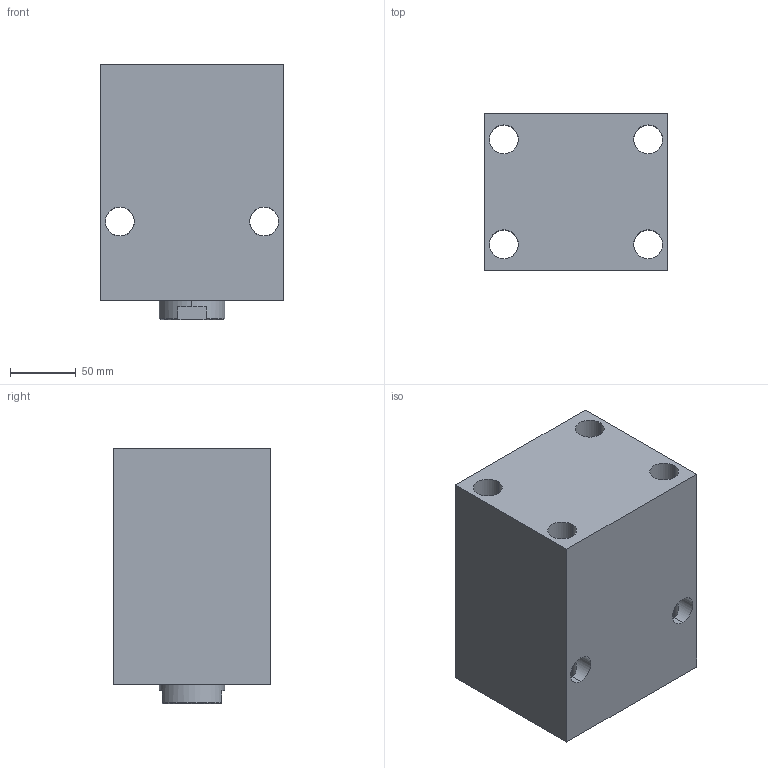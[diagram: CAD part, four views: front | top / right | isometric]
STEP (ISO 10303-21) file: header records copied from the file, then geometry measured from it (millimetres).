
FILE_DESCRIPTION (( 'STEP AP203' ), '1' );
FILE_NAME ('Block cylinder B01C-810F.STEP', '2022-07-09T18:37:14', ( '' ), ( '' ), 'SwSTEP 2.0', 'SolidWorks 2017', '' );
FILE_SCHEMA (( 'CONFIG_CONTROL_DESIGN' ));
Length unit declared in the file: millimetre
Products named in the file (3): Body_ 810F_50ST; Piston _810F; Block cylinder B01C-810F
Assembly tree (2 placements, depth 2):
  Block cylinder B01C-810F
    Body_ 810F_50ST
    Piston _810F
Bounding box: 140 x 120 x 195 mm (x, y, z)
Volume: 2905059.1 mm3; surface area: 229248.6 mm2
Topology: 2 solids, 2 shells, 350 faces, 954 edges, 623 vertices
Faces by surface type: bspline 159, plane 139, cylinder 44, cone 8
Entity records: 17795 total; most frequent: CARTESIAN_POINT 9795, ORIENTED_EDGE 1896, DIRECTION 1048, EDGE_CURVE 948, VERTEX_POINT 623, LINE 532, VECTOR 532, EDGE_LOOP 391
